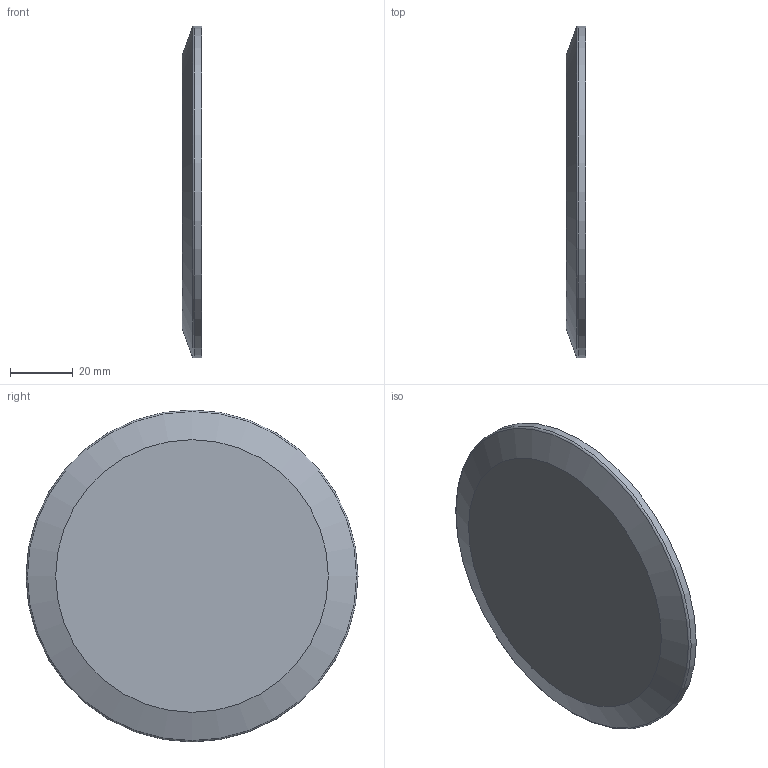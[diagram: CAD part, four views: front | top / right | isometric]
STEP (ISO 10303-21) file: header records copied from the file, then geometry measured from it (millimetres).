
FILE_DESCRIPTION(/* description */ (''),/* implementation_level */ '2;1');
FILE_NAME(/* name */ '12766-Ferrule size-106.stp',/* time_stamp */ '2024-12-16T08:29:58+01:00',/* author */ ('roger.thijssen'),/* organization */ (''),/* preprocessor_version */ 'ST-DEVELOPER v20',/* originating_system */ 'Autodesk Inventor 2025',/* authorisation */ '');
FILE_SCHEMA (('AUTOMOTIVE_DESIGN { 1 0 10303 214 3 1 1 }'));
Length unit declared in the file: millimetre
Products named in the file (1): 12766-Ferrule size-106
Bounding box: 6.3 x 106 x 106 mm (x, y, z)
Volume: 49388.4 mm3; surface area: 19192.4 mm2
Topology: 1 solids, 1 shells, 11 faces, 21 edges, 13 vertices
Faces by surface type: torus 4, cone 3, plane 3, cylinder 1
Full cylindrical faces by diameter (mm): 106 x1
Entity records: 351 total; most frequent: DIRECTION 62, CARTESIAN_POINT 46, ORIENTED_EDGE 42, AXIS2_PLACEMENT_3D 29, EDGE_CURVE 21, CIRCLE 17, VERTEX_POINT 13, EDGE_LOOP 12
